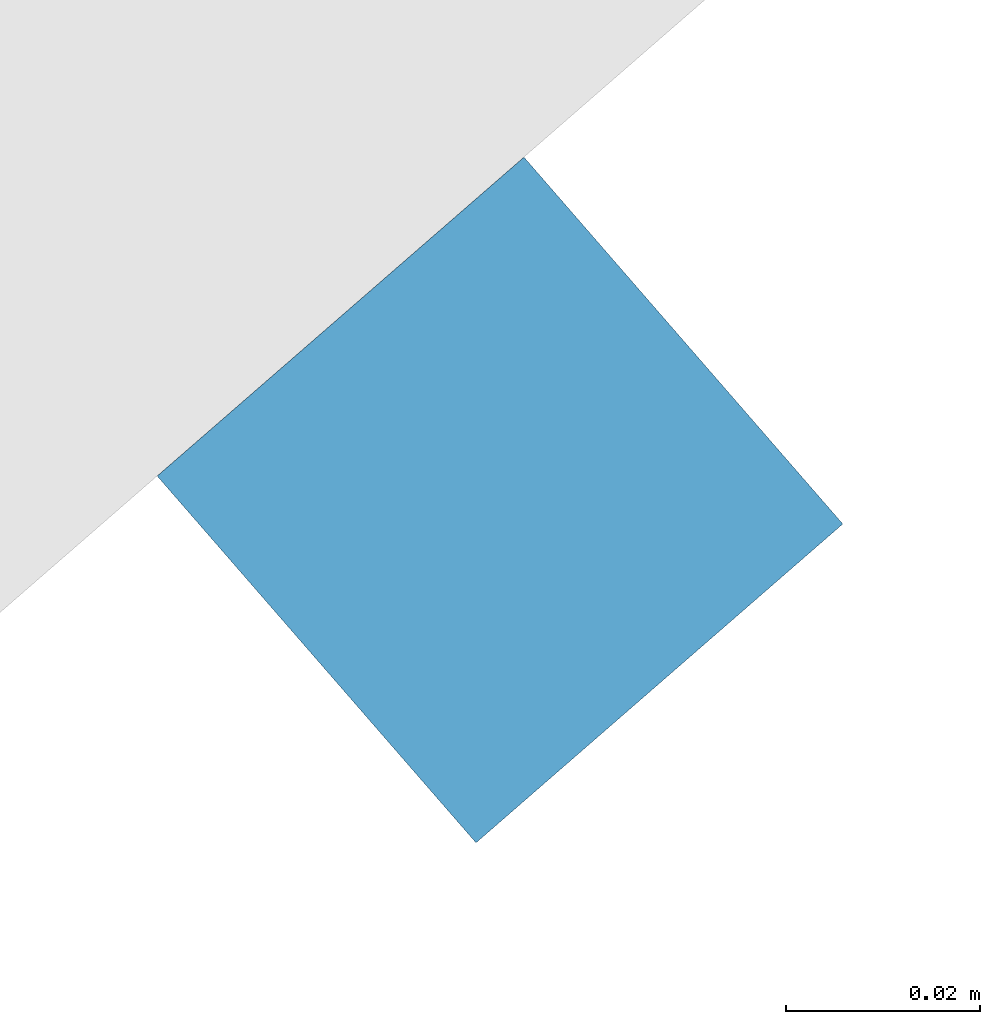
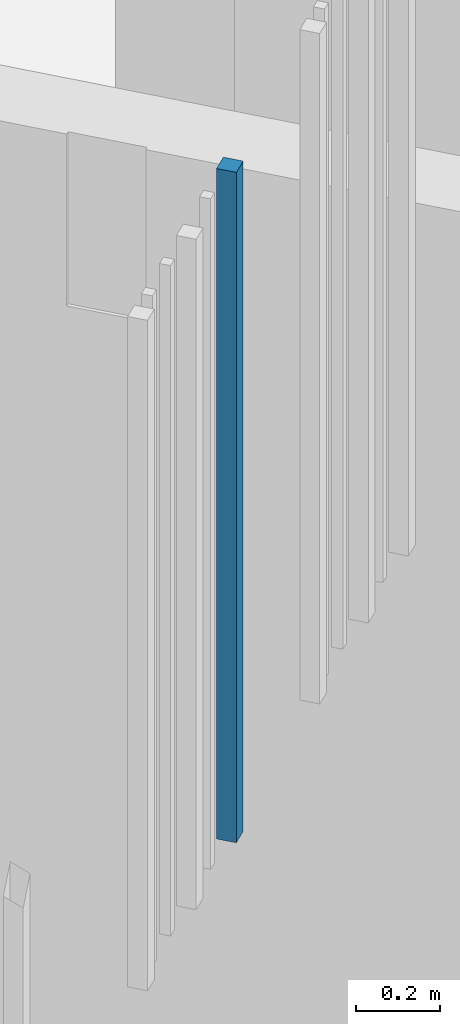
# One storey, part 58 of 124: 1 wall.
"""IFC2X3 building model written with IfcOpenShell, lengths in millimetres."""

from ifc_helpers import new_model, entity, si_unit, converted_unit, derived_unit, money_unit, direction, frame, origin_with_axes, place, context, subcontext, project, spatial, faceted_brep, material, type_object, element, save


model = new_model("IFC2X3")

# Units and contexts
model_context = context("Model", 3, precision=1e-05, world=origin_with_axes(), true_north=direction((0.0, 1.0)))
body_context = subcontext(model_context, "Body", "Model", "MODEL_VIEW")
ifc_project = project(units=[si_unit("LENGTHUNIT", "METRE", prefix="MILLI"), si_unit("AREAUNIT", "SQUARE_METRE"), si_unit("VOLUMEUNIT", "CUBIC_METRE"), converted_unit("PLANEANGLEUNIT", "DEGREE", entity("IfcPlaneAngleMeasure", 0.0174532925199), si_unit("PLANEANGLEUNIT", "RADIAN"), dimensions=[0, 0, 0, 0, 0, 0, 0]), si_unit("SOLIDANGLEUNIT", "STERADIAN"), money_unit("EUR"), converted_unit("TIMEUNIT", "Year", entity("IfcTimeMeasure", 31556926.0), si_unit("TIMEUNIT", "SECOND"), dimensions=[0, 0, 1, 0, 0, 0, 0]), si_unit("MASSUNIT", "GRAM", prefix="KILO"), si_unit("THERMODYNAMICTEMPERATUREUNIT", "DEGREE_CELSIUS"), si_unit("LUMINOUSINTENSITYUNIT", "LUMEN"), si_unit("ENERGYUNIT", "JOULE", prefix="MEGA"), derived_unit("THERMALCONDUCTANCEUNIT", [(si_unit("POWERUNIT", "WATT"), 1), (si_unit("LENGTHUNIT", "METRE"), -1), (si_unit("THERMODYNAMICTEMPERATUREUNIT", "KELVIN"), -1)]), derived_unit("SPECIFICHEATCAPACITYUNIT", [(si_unit("ENERGYUNIT", "JOULE"), 1), (si_unit("MASSUNIT", "GRAM", prefix="KILO"), -1), (si_unit("THERMODYNAMICTEMPERATUREUNIT", "KELVIN"), -1)]), derived_unit("MASSDENSITYUNIT", [(si_unit("MASSUNIT", "GRAM", prefix="KILO"), 1), (si_unit("VOLUMEUNIT", "CUBIC_METRE"), -1)])], contexts=[model_context])

# Site, building, storey
site_placement = place(None, origin_with_axes())
site = spatial("IfcSite", under=ifc_project, at=site_placement, Name="Site", CompositionType="ELEMENT")
building_placement = place(site_placement, origin_with_axes())
building = spatial("IfcBuilding", under=site, at=building_placement, Name="Building", CompositionType="ELEMENT")
storey_placement = place(building_placement, frame((0.0, 0.0, -1615.0), z_axis=(0.0, 0.0, 1.0), x_axis=(1.0, 0.0, 0.0)))
storey = spatial("IfcBuildingStorey", under=building, at=storey_placement, Name="0  korrus", CompositionType="ELEMENT", Elevation=-1615.0)

# Wall
ifc_material = material(Name="Site specified")
wall_type = type_object("IfcWallType", Name="Puitfassaadi ribistik", PredefinedType="NOTDEFINED")
wall_placement = place(storey_placement, frame((154490.4129, 78927.0837075, 9530.0), z_axis=(0.0, 0.0, 1.0), x_axis=(-0.754709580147, -0.656059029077, 0.0)))
element("IfcWall", 1, at=wall_placement, inside=storey, type_object=wall_type, material=ifc_material, Name="Site specified", context=body_context, shape_type="Brep", body=[
    faceted_brep([(25.0, 25.0, 1950.0), (25.0, 25.0, 0.0), (-25.0, 25.0, 0.0), (-25.0, 25.0, 1950.0), (25.0, -25.0, 1950.0), (25.0, -25.0, 0.0), (-25.0, -25.0, 0.0), (-25.0, -25.0, 1950.0)], [[[0, 1, 2, 3]], [[4, 5, 1, 0]], [[2, 1, 5, 6]], [[3, 2, 6, 7]], [[4, 0, 3, 7]], [[7, 6, 5, 4]]]),
])

save(model, "model.ifc")
